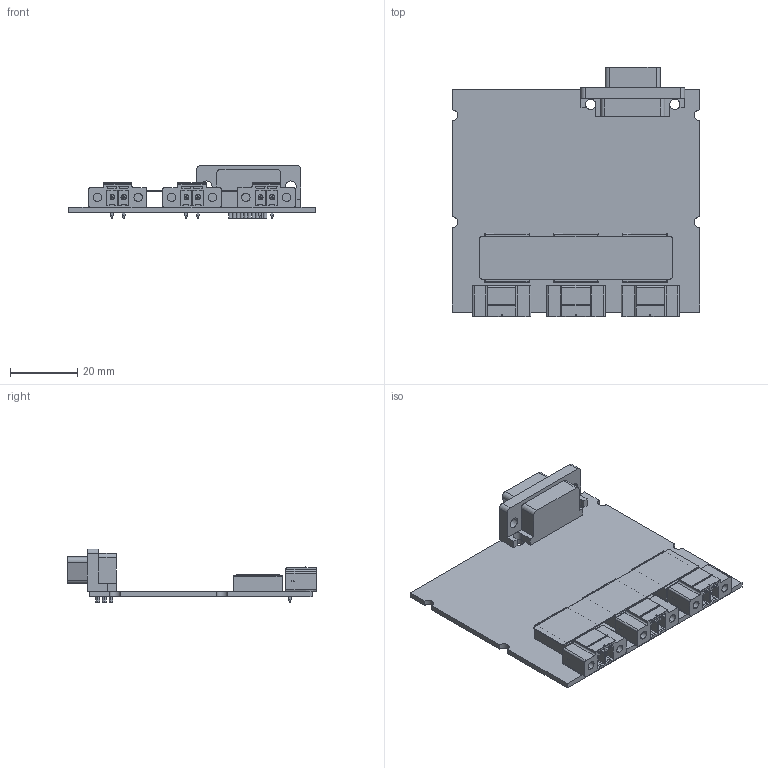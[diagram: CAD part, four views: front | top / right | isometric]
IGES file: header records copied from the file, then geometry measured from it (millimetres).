
Start section:  PTC IGES file: cd_ni_9225e.igs
Global section: file name: cd_ni_9225e.igs; native system: Pro/ENGINEER by Parametric Technology Corporation; preprocessor: 2006080; author: scarrasc; organization: Unknown; date: 100205.160227; units: inch
Bounding box: 73.38 x 74.07 x 15.95 mm (x, y, z)
Surface area: 15909.8 mm2 (no closed solid volume)
Topology: 0 solids, 0 shells, 672 faces, 3455 edges, 3449 vertices
Faces by surface type: bspline 456, revolution 216
